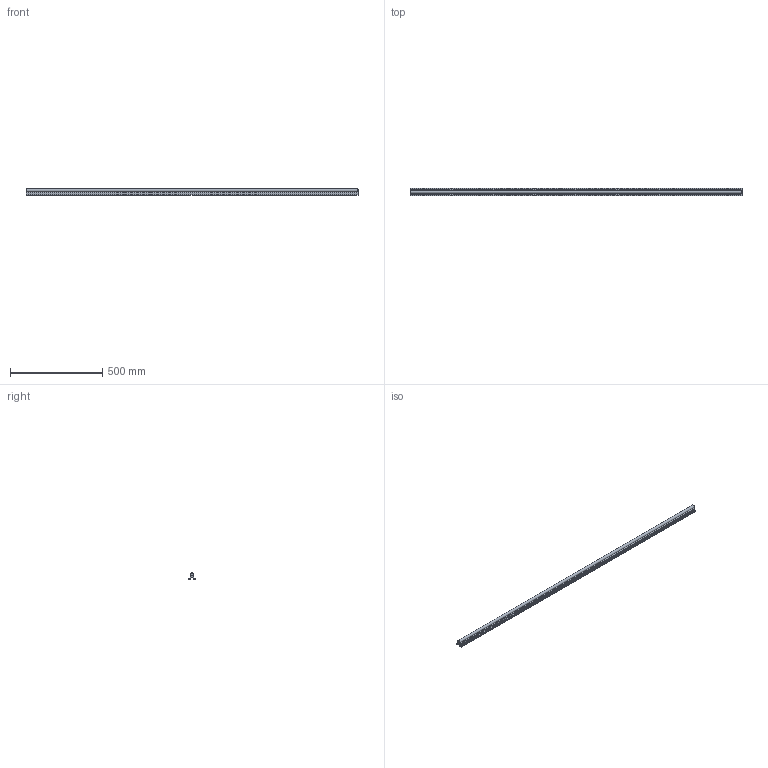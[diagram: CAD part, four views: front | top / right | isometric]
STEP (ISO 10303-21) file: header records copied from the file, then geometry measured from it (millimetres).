
FILE_DESCRIPTION(/* description */ (''),/* implementation_level */ '2;1');
FILE_NAME(/* name */ 'C:\Users\David\Desktop\stepFiles\Profilfuehrung\LFS16x1800.stp',/* time_stamp */ '2018-06-24T15:18:21+02:00',/* author */ ('Buskamp'),/* organization */ (''),/* preprocessor_version */ 'ST-DEVELOPER v17',/* originating_system */ 'Autodesk Inventor 2019',/* authorisation */ '');
FILE_SCHEMA (('AUTOMOTIVE_DESIGN { 1 0 10303 214 3 1 1 }'));
Length unit declared in the file: millimetre
Products named in the file (1): Linearführung D16xvariabel
Bounding box: 1800 x 40 x 32.97 mm (x, y, z)
Volume: 919260.2 mm3; surface area: 282398.7 mm2
Topology: 1 solids, 1 shells, 140 faces, 478 edges, 316 vertices
Faces by surface type: plane 97, cylinder 25, cone 18
Full cylindrical faces by diameter (mm): 5.5 x24
Entity records: 5345 total; most frequent: CARTESIAN_POINT 1007, ORIENTED_EDGE 956, DIRECTION 912, EDGE_CURVE 478, AXIS2_PLACEMENT_3D 329, VERTEX_POINT 316, LINE 254, VECTOR 254
